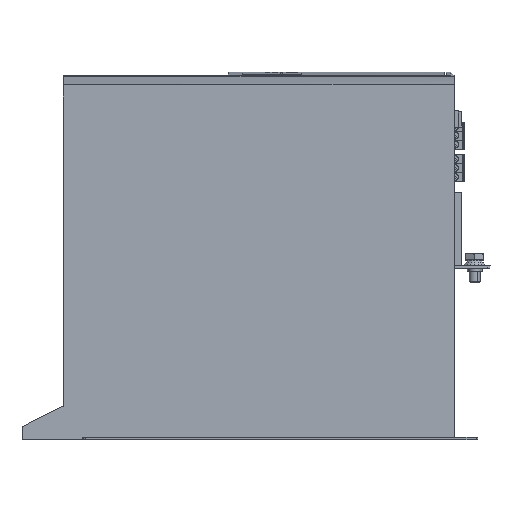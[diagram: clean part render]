
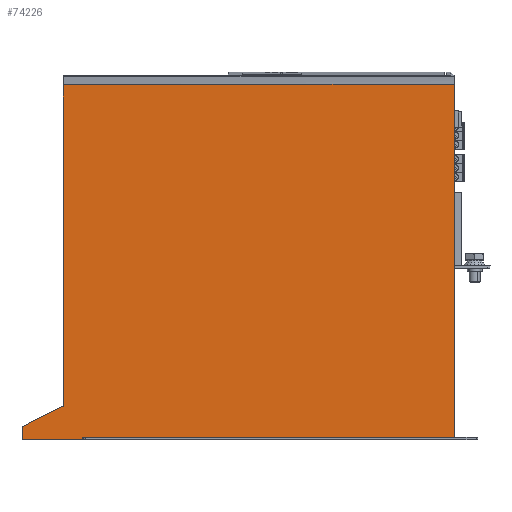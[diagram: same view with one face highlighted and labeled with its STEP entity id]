
A CAD part, left-side view. The second image highlights one B-rep face of the part: STEP entity #74226.
In plain terms, the highlighted planar face has unit normal (-1, 0, 0).
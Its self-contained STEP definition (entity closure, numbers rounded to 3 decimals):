
#6346 = ORIENTED_EDGE ( 'NONE', *, *, #97044, .F. ) ;
#6761 = LINE ( 'NONE', #30735, #136220 ) ;
#9818 = EDGE_CURVE ( 'NONE', #122241, #35155, #58105, .T. ) ;
#11673 = CARTESIAN_POINT ( 'NONE',  ( -100., 241.1, -1.5 ) ) ;
#12485 = DIRECTION ( 'NONE',  ( 1., 0., 0. ) ) ;
#13158 = AXIS2_PLACEMENT_3D ( 'NONE', #89992, #12485, #103000 ) ;
#14994 = VERTEX_POINT ( 'NONE', #150471 ) ;
#15391 = DIRECTION ( 'NONE',  ( 0., 0., 1. ) ) ;
#18059 = VECTOR ( 'NONE', #42794, 1000. ) ;
#24699 = DIRECTION ( 'NONE',  ( 0., 1., 0. ) ) ;
#25089 = VECTOR ( 'NONE', #164771, 1000. ) ;
#25168 = LINE ( 'NONE', #96908, #89927 ) ;
#26120 = LINE ( 'NONE', #107250, #18059 ) ;
#26271 = VECTOR ( 'NONE', #24699, 1000. ) ;
#28786 = FACE_OUTER_BOUND ( 'NONE', #112189, .T. ) ;
#28822 = ORIENTED_EDGE ( 'NONE', *, *, #114101, .F. ) ;
#30735 = CARTESIAN_POINT ( 'NONE',  ( -100., 0., 196.854 ) ) ;
#33182 = LINE ( 'NONE', #66897, #97923 ) ;
#35155 = VERTEX_POINT ( 'NONE', #91000 ) ;
#40173 = ORIENTED_EDGE ( 'NONE', *, *, #74935, .F. ) ;
#40333 = EDGE_CURVE ( 'NONE', #109477, #128909, #33182, .T. ) ;
#41823 = ORIENTED_EDGE ( 'NONE', *, *, #40333, .F. ) ;
#42618 = DIRECTION ( 'NONE',  ( 0., -1., 0. ) ) ;
#42794 = DIRECTION ( 'NONE',  ( 0., -0.893, 0.45 ) ) ;
#45160 = CARTESIAN_POINT ( 'NONE',  ( -100., 218.1, 17.1 ) ) ;
#45204 = LINE ( 'NONE', #47392, #79505 ) ;
#45970 = ORIENTED_EDGE ( 'NONE', *, *, #76682, .F. ) ;
#47392 = CARTESIAN_POINT ( 'NONE',  ( -100., 218.1, 187.5 ) ) ;
#48416 = VECTOR ( 'NONE', #159912, 1000. ) ;
#49725 = CARTESIAN_POINT ( 'NONE',  ( -100., 217.855, 196.854 ) ) ;
#50491 = PLANE ( 'NONE',  #13158 ) ;
#52275 = VERTEX_POINT ( 'NONE', #138944 ) ;
#54442 = VERTEX_POINT ( 'NONE', #49725 ) ;
#55516 = ORIENTED_EDGE ( 'NONE', *, *, #110807, .F. ) ;
#58105 = LINE ( 'NONE', #78467, #144865 ) ;
#58513 = DIRECTION ( 'NONE',  ( 0., 1., 0. ) ) ;
#60421 = DIRECTION ( 'NONE',  ( 0., -0.026, 1. ) ) ;
#63582 = CARTESIAN_POINT ( 'NONE',  ( -100., 218.1, 187.5 ) ) ;
#64755 = LINE ( 'NONE', #11673, #26271 ) ;
#66097 = DIRECTION ( 'NONE',  ( 0., 0., -1. ) ) ;
#66897 = CARTESIAN_POINT ( 'NONE',  ( -100., 218.1, 17.1 ) ) ;
#74226 = ADVANCED_FACE ( 'NONE', ( #28786 ), #50491, .F. ) ;
#74642 = VERTEX_POINT ( 'NONE', #112989 ) ;
#74935 = EDGE_CURVE ( 'NONE', #52275, #78405, #26120, .T. ) ;
#76682 = EDGE_CURVE ( 'NONE', #35155, #153062, #25168, .T. ) ;
#78405 = VERTEX_POINT ( 'NONE', #97538 ) ;
#78467 = CARTESIAN_POINT ( 'NONE',  ( -100., 0., 0. ) ) ;
#79505 = VECTOR ( 'NONE', #60421, 1000. ) ;
#87309 = EDGE_CURVE ( 'NONE', #14994, #52275, #147418, .T. ) ;
#89004 = ORIENTED_EDGE ( 'NONE', *, *, #87309, .F. ) ;
#89927 = VECTOR ( 'NONE', #58513, 1000. ) ;
#89992 = CARTESIAN_POINT ( 'NONE',  ( -100., 0., 0. ) ) ;
#90111 = EDGE_CURVE ( 'NONE', #153062, #74642, #140425, .T. ) ;
#91000 = CARTESIAN_POINT ( 'NONE',  ( -100., 0., 0. ) ) ;
#93389 = ORIENTED_EDGE ( 'NONE', *, *, #9818, .F. ) ;
#96908 = CARTESIAN_POINT ( 'NONE',  ( -100., 207.104, 0. ) ) ;
#97044 = EDGE_CURVE ( 'NONE', #78405, #109477, #120272, .T. ) ;
#97538 = CARTESIAN_POINT ( 'NONE',  ( -100., 219.31, 16.994 ) ) ;
#97923 = VECTOR ( 'NONE', #15391, 1000. ) ;
#101030 = CARTESIAN_POINT ( 'NONE',  ( -100., 207.148, -1.5 ) ) ;
#103000 = DIRECTION ( 'NONE',  ( 0., 0., -1. ) ) ;
#107250 = CARTESIAN_POINT ( 'NONE',  ( -100., 219.31, 16.994 ) ) ;
#109477 = VERTEX_POINT ( 'NONE', #45160 ) ;
#110807 = EDGE_CURVE ( 'NONE', #74642, #14994, #64755, .T. ) ;
#112189 = EDGE_LOOP ( 'NONE', ( #89004, #55516, #155866, #45970, #93389, #124472, #28822, #41823, #6346, #40173 ) ) ;
#112989 = CARTESIAN_POINT ( 'NONE',  ( -100., 207.148, -1.5 ) ) ;
#114101 = EDGE_CURVE ( 'NONE', #128909, #54442, #45204, .T. ) ;
#116194 = VECTOR ( 'NONE', #135110, 1000. ) ;
#120272 = LINE ( 'NONE', #162699, #116194 ) ;
#122241 = VERTEX_POINT ( 'NONE', #142814 ) ;
#124472 = ORIENTED_EDGE ( 'NONE', *, *, #127652, .F. ) ;
#127652 = EDGE_CURVE ( 'NONE', #54442, #122241, #6761, .T. ) ;
#128909 = VERTEX_POINT ( 'NONE', #63582 ) ;
#133935 = CARTESIAN_POINT ( 'NONE',  ( -100., 241.1, -1.5 ) ) ;
#135110 = DIRECTION ( 'NONE',  ( 0., -0.996, 0.087 ) ) ;
#136220 = VECTOR ( 'NONE', #42618, 1000. ) ;
#138944 = CARTESIAN_POINT ( 'NONE',  ( -100., 241.1, 6. ) ) ;
#140425 = LINE ( 'NONE', #101030, #25089 ) ;
#140691 = CARTESIAN_POINT ( 'NONE',  ( -100., 207.104, 0. ) ) ;
#142814 = CARTESIAN_POINT ( 'NONE',  ( -100., 0., 196.854 ) ) ;
#144865 = VECTOR ( 'NONE', #66097, 1000. ) ;
#147418 = LINE ( 'NONE', #133935, #48416 ) ;
#150471 = CARTESIAN_POINT ( 'NONE',  ( -100., 241.1, -1.5 ) ) ;
#153062 = VERTEX_POINT ( 'NONE', #140691 ) ;
#155866 = ORIENTED_EDGE ( 'NONE', *, *, #90111, .F. ) ;
#159912 = DIRECTION ( 'NONE',  ( 0., 0., 1. ) ) ;
#162699 = CARTESIAN_POINT ( 'NONE',  ( -100., 218.1, 17.1 ) ) ;
#164771 = DIRECTION ( 'NONE',  ( 0., 0.029, -1. ) ) ;
